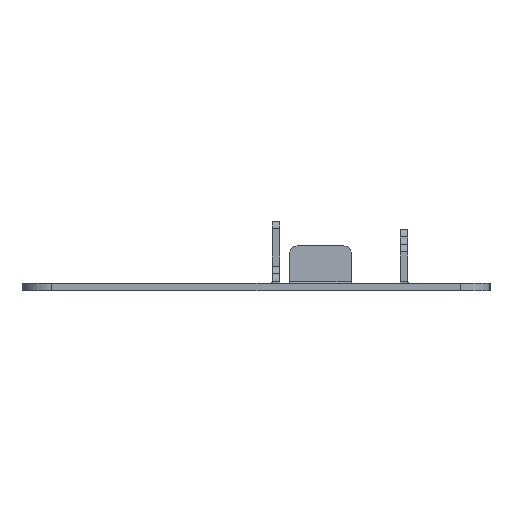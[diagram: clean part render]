
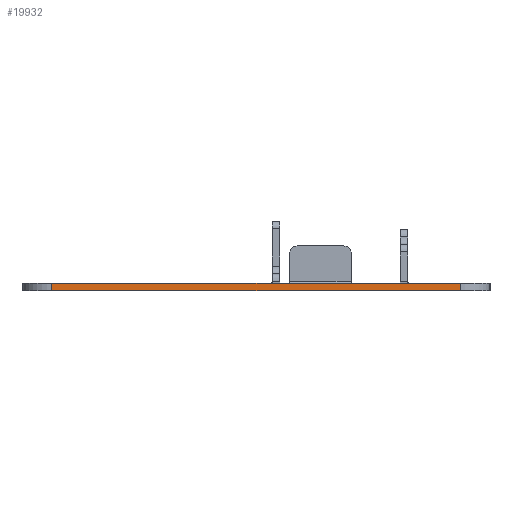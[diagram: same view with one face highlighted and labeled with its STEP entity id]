
A CAD part, left-side view. The second image highlights one B-rep face of the part: STEP entity #19932.
In plain terms, the highlighted planar face has unit normal (-1, 0, 0).
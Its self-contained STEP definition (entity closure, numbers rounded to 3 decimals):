
#316=DIRECTION('',(0.,-1.,0.));
#317=VECTOR('',#316,54.582);
#318=CARTESIAN_POINT('',(-115.6,24.515,-1.));
#319=LINE('',#318,#317);
#4554=DIRECTION('',(0.,-1.,0.));
#4555=VECTOR('',#4554,54.582);
#4556=CARTESIAN_POINT('',(-115.6,24.515,0.));
#4557=LINE('',#4556,#4555);
#8775=DIRECTION('',(0.,0.,1.));
#8776=VECTOR('',#8775,1.);
#8777=CARTESIAN_POINT('',(-115.6,24.515,-1.));
#8778=LINE('',#8777,#8776);
#8782=DIRECTION('',(0.,0.,1.));
#8783=VECTOR('',#8782,1.);
#8784=CARTESIAN_POINT('',(-115.6,-30.067,-1.));
#8785=LINE('',#8784,#8783);
#14090=CARTESIAN_POINT('',(-115.6,24.515,0.));
#14092=VERTEX_POINT('',#14090);
#14093=CARTESIAN_POINT('',(-115.6,24.515,-1.));
#14094=VERTEX_POINT('',#14093);
#14097=CARTESIAN_POINT('',(-115.6,-30.067,0.));
#14099=VERTEX_POINT('',#14097);
#14103=CARTESIAN_POINT('',(-115.6,-30.067,-1.));
#14104=VERTEX_POINT('',#14103);
#19920=CARTESIAN_POINT('',(-115.6,-2.776,-0.5));
#19921=DIRECTION('',(-1.,0.,0.));
#19922=DIRECTION('',(0.,-1.,0.));
#19923=AXIS2_PLACEMENT_3D('',#19920,#19921,#19922);
#19924=PLANE('',#19923);
#19925=ORIENTED_EDGE('',*,*,#19913,.T.);
#19926=ORIENTED_EDGE('',*,*,#18227,.T.);
#19928=ORIENTED_EDGE('',*,*,#19927,.F.);
#19929=ORIENTED_EDGE('',*,*,#16682,.F.);
#19930=EDGE_LOOP('',(#19925,#19926,#19928,#19929));
#19931=FACE_OUTER_BOUND('',#19930,.F.);
#16682=EDGE_CURVE('',#14094,#14104,#319,.T.);
#18227=EDGE_CURVE('',#14092,#14099,#4557,.T.);
#19913=EDGE_CURVE('',#14094,#14092,#8778,.T.);
#19927=EDGE_CURVE('',#14104,#14099,#8785,.T.);
#19932=ADVANCED_FACE('',(#19931),#19924,.T.);
